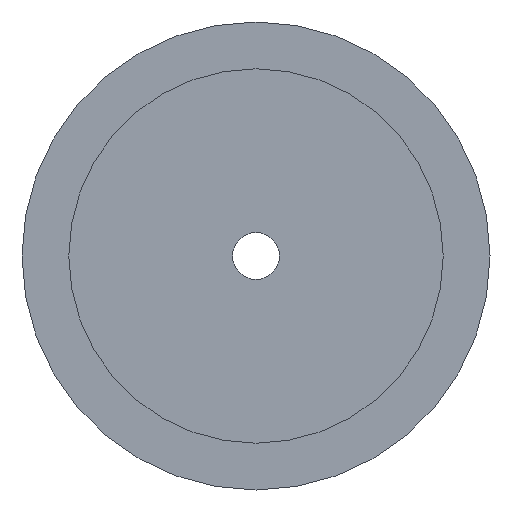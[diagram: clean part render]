
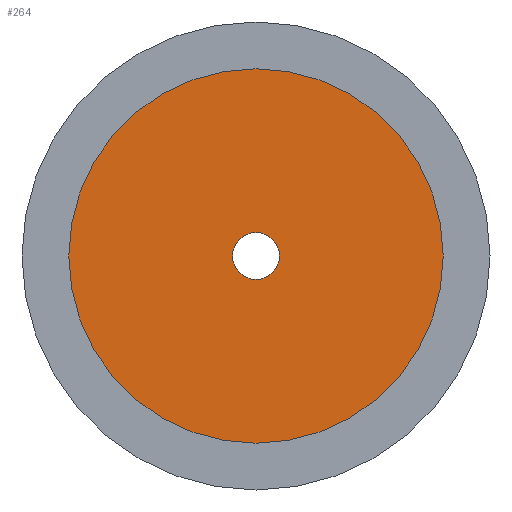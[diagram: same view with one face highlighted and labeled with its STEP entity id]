
A CAD part, front view. The second image highlights one B-rep face of the part: STEP entity #264.
In plain terms, the highlighted planar face has unit normal (0, -1, 0).
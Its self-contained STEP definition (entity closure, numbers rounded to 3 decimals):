
#4 = VERTEX_POINT ( 'NONE', #280 ) ;
#9 = AXIS2_PLACEMENT_3D ( 'NONE', #156, #277, #32 ) ;
#10 = CARTESIAN_POINT ( 'NONE',  ( 0., -4., 0. ) ) ;
#13 = DIRECTION ( 'NONE',  ( 0., 0., 1. ) ) ;
#19 = DIRECTION ( 'NONE',  ( 0., 1., 0. ) ) ;
#28 = PLANE ( 'NONE',  #318 ) ;
#31 = CARTESIAN_POINT ( 'NONE',  ( 0., -4., 2.5 ) ) ;
#32 = DIRECTION ( 'NONE',  ( 0., 0., 1. ) ) ;
#38 = CIRCLE ( 'NONE', #90, 2.5 ) ;
#41 = CIRCLE ( 'NONE', #384, 2.5 ) ;
#47 = EDGE_CURVE ( 'NONE', #4, #130, #361, .T. ) ;
#56 = CIRCLE ( 'NONE', #209, 20. ) ;
#71 = CARTESIAN_POINT ( 'NONE',  ( 0., -4., 0. ) ) ;
#87 = DIRECTION ( 'NONE',  ( 0., 0., 1. ) ) ;
#90 = AXIS2_PLACEMENT_3D ( 'NONE', #71, #285, #13 ) ;
#98 = VERTEX_POINT ( 'NONE', #31 ) ;
#102 = EDGE_CURVE ( 'NONE', #98, #225, #41, .T. ) ;
#130 = VERTEX_POINT ( 'NONE', #183 ) ;
#133 = ORIENTED_EDGE ( 'NONE', *, *, #349, .T. ) ;
#153 = DIRECTION ( 'NONE',  ( 0., 0., 1. ) ) ;
#156 = CARTESIAN_POINT ( 'NONE',  ( 0., -4., 0. ) ) ;
#168 = ORIENTED_EDGE ( 'NONE', *, *, #102, .T. ) ;
#176 = CARTESIAN_POINT ( 'NONE',  ( 0., -4., 0. ) ) ;
#183 = CARTESIAN_POINT ( 'NONE',  ( 0., -4., -20. ) ) ;
#198 = EDGE_LOOP ( 'NONE', ( #133, #168 ) ) ;
#206 = ORIENTED_EDGE ( 'NONE', *, *, #47, .F. ) ;
#209 = AXIS2_PLACEMENT_3D ( 'NONE', #10, #19, #227 ) ;
#214 = DIRECTION ( 'NONE',  ( 0., 1., 0. ) ) ;
#225 = VERTEX_POINT ( 'NONE', #241 ) ;
#227 = DIRECTION ( 'NONE',  ( 0., 0., 1. ) ) ;
#238 = DIRECTION ( 'NONE',  ( 0., 1., 0. ) ) ;
#241 = CARTESIAN_POINT ( 'NONE',  ( 0., -4., -2.5 ) ) ;
#264 = ADVANCED_FACE ( 'NONE', ( #334, #265 ), #28, .F. ) ;
#265 = FACE_OUTER_BOUND ( 'NONE', #269, .T. ) ;
#269 = EDGE_LOOP ( 'NONE', ( #379, #206 ) ) ;
#276 = CARTESIAN_POINT ( 'NONE',  ( 0., -4., 0. ) ) ;
#277 = DIRECTION ( 'NONE',  ( 0., 1., 0. ) ) ;
#280 = CARTESIAN_POINT ( 'NONE',  ( 0., -4., 20. ) ) ;
#285 = DIRECTION ( 'NONE',  ( 0., 1., 0. ) ) ;
#315 = EDGE_CURVE ( 'NONE', #130, #4, #56, .T. ) ;
#318 = AXIS2_PLACEMENT_3D ( 'NONE', #176, #238, #87 ) ;
#334 = FACE_BOUND ( 'NONE', #198, .T. ) ;
#349 = EDGE_CURVE ( 'NONE', #225, #98, #38, .T. ) ;
#361 = CIRCLE ( 'NONE', #9, 20. ) ;
#379 = ORIENTED_EDGE ( 'NONE', *, *, #315, .F. ) ;
#384 = AXIS2_PLACEMENT_3D ( 'NONE', #276, #214, #153 ) ;
